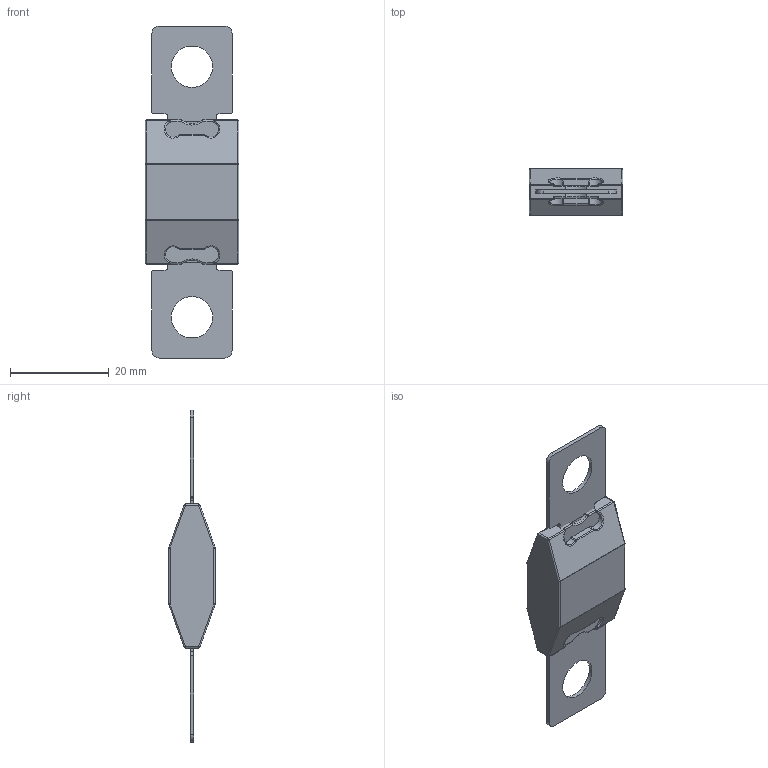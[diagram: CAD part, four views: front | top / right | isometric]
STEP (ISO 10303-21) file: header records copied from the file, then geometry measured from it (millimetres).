
FILE_DESCRIPTION(/* description */ (''),/* implementation_level */ '2;1');
FILE_NAME(/* name */ 'C:\Users\Hani\Desktop\work\MGGA-200\MGGA-200.stp',/* time_stamp */ '2020-08-16T09:21:00-07:00',/* author */ ('Hani'),/* organization */ (''),/* preprocessor_version */ 'ST-DEVELOPER v17',/* originating_system */ 'Autodesk Inventor 2019',/* authorisation */ '');
FILE_SCHEMA (('AUTOMOTIVE_DESIGN { 1 0 10303 214 3 1 1 }'));
Length unit declared in the file: inch
Products named in the file (3): MGGA-200; terminal; body
Assembly tree (2 placements, depth 2):
  MGGA-200
    terminal
    body
Bounding box: 19.05 x 9.4 x 67.31 mm (x, y, z)
Volume: 4486.2 mm3; surface area: 3081.3 mm2
Topology: 2 solids, 2 shells, 222 faces, 534 edges, 316 vertices
Faces by surface type: cylinder 110, plane 60, sphere 32, bspline 16, torus 4
Full cylindrical faces by diameter (mm): 8.382 x2
Entity records: 7019 total; most frequent: CARTESIAN_POINT 1634, DIRECTION 1196, ORIENTED_EDGE 1068, EDGE_CURVE 534, AXIS2_PLACEMENT_3D 459, VERTEX_POINT 316, LINE 278, VECTOR 278
